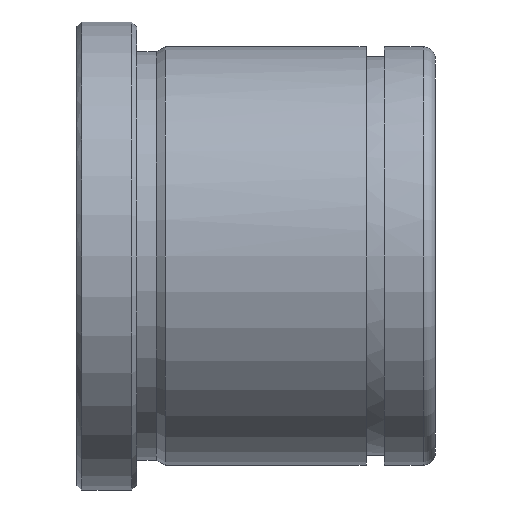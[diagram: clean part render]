
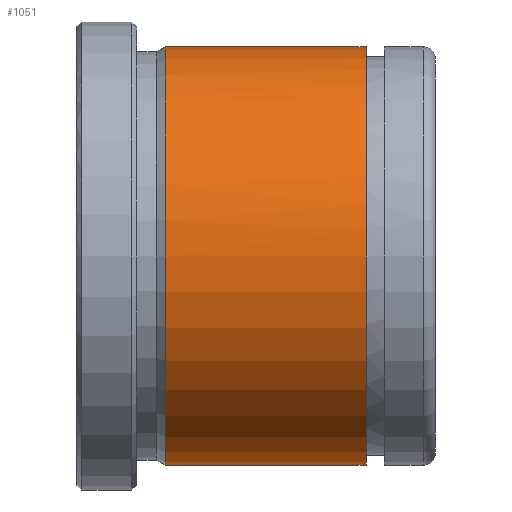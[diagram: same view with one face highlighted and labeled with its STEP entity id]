
A CAD part, front view. The second image highlights one B-rep face of the part: STEP entity #1051.
In plain terms, the highlighted cylindrical face has radius 21 mm (diameter 42 mm), a partial arc.
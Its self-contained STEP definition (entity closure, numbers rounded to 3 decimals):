
#851=CARTESIAN_POINT('Vertex',(8.866,0.,-21.)) ;
#858=CARTESIAN_POINT('Vertex',(8.866,0.,21.)) ;
#887=CARTESIAN_POINT('Axis2P3D Location',(8.866,0.,0.)) ;
#891=CARTESIAN_POINT('Vertex',(8.866,-21.,0.)) ;
#894=CARTESIAN_POINT('Axis2P3D Location',(8.866,0.,0.)) ;
#985=CARTESIAN_POINT('Line Origine',(72.,0.,21.)) ;
#989=CARTESIAN_POINT('Vertex',(29.05,0.,21.)) ;
#1006=CARTESIAN_POINT('Vertex',(29.05,0.,-21.)) ;
#1009=CARTESIAN_POINT('Line Origine',(72.,0.,-21.)) ;
#1023=CARTESIAN_POINT('Axis2P3D Location',(72.,0.,0.)) ;
#1028=CARTESIAN_POINT('Axis2P3D Location',(29.05,0.,0.)) ;
#1032=CARTESIAN_POINT('Vertex',(29.05,-21.,0.)) ;
#1036=CARTESIAN_POINT('Control Point',(29.05,0.,21.)) ;
#1037=CARTESIAN_POINT('Control Point',(29.05,-6.597,21.)) ;
#1038=CARTESIAN_POINT('Control Point',(29.05,-13.201,18.417)) ;
#1039=CARTESIAN_POINT('Control Point',(29.05,-18.417,13.201)) ;
#1040=CARTESIAN_POINT('Control Point',(29.05,-21.,6.597)) ;
#1041=CARTESIAN_POINT('Control Point',(29.05,-21.,0.)) ;
#888=DIRECTION('Axis2P3D Direction',(1.,0.,-0.)) ;
#895=DIRECTION('Axis2P3D Direction',(1.,0.,-0.)) ;
#986=DIRECTION('Vector Direction',(-1.,0.,0.)) ;
#1010=DIRECTION('Vector Direction',(-1.,0.,0.)) ;
#1024=DIRECTION('Axis2P3D Direction',(-1.,-0.,-0.)) ;
#1025=DIRECTION('Axis2P3D XDirection',(0.,0.,-1.)) ;
#1029=DIRECTION('Axis2P3D Direction',(-1.,-0.,-0.)) ;
#889=AXIS2_PLACEMENT_3D('Circle Axis2P3D',#887,#888,$) ;
#896=AXIS2_PLACEMENT_3D('Circle Axis2P3D',#894,#895,$) ;
#1026=AXIS2_PLACEMENT_3D('Cylinder Axis2P3D',#1023,#1024,#1025) ;
#1030=AXIS2_PLACEMENT_3D('Circle Axis2P3D',#1028,#1029,$) ;
#1044=ORIENTED_EDGE('',*,*,#1013,.T.) ;
#1045=ORIENTED_EDGE('',*,*,#1034,.F.) ;
#1046=ORIENTED_EDGE('',*,*,#1042,.F.) ;
#1047=ORIENTED_EDGE('',*,*,#991,.T.) ;
#1048=ORIENTED_EDGE('',*,*,#898,.T.) ;
#1049=ORIENTED_EDGE('',*,*,#893,.T.) ;
#987=VECTOR('Line Direction',#986,1.) ;
#1011=VECTOR('Line Direction',#1010,1.) ;
#1051=ADVANCED_FACE('553-30X36',(#1050),#1027,.T.) ;
#1035=B_SPLINE_CURVE_WITH_KNOTS('',5,(#1036,#1037,#1038,#1039,#1040,#1041),.UNSPECIFIED.,.F.,.U.,(6,6),(-16.493,16.493),.UNSPECIFIED.) ;
#890=CIRCLE('generated circle',#889,21.) ;
#897=CIRCLE('generated circle',#896,21.) ;
#1031=CIRCLE('generated circle',#1030,21.) ;
#1027=CYLINDRICAL_SURFACE('generated cylinder',#1026,21.) ;
#893=EDGE_CURVE('',#892,#852,#890,.T.) ;
#898=EDGE_CURVE('',#859,#892,#897,.T.) ;
#991=EDGE_CURVE('',#990,#859,#988,.T.) ;
#1013=EDGE_CURVE('',#852,#1007,#1012,.F.) ;
#1034=EDGE_CURVE('',#1033,#1007,#1031,.F.) ;
#1042=EDGE_CURVE('',#990,#1033,#1035,.T.) ;
#1043=EDGE_LOOP('',(#1044,#1045,#1046,#1047,#1048,#1049)) ;
#1050=FACE_OUTER_BOUND('',#1043,.T.) ;
#988=LINE('Line',#985,#987) ;
#1012=LINE('Line',#1009,#1011) ;
#852=VERTEX_POINT('',#851) ;
#859=VERTEX_POINT('',#858) ;
#892=VERTEX_POINT('',#891) ;
#990=VERTEX_POINT('',#989) ;
#1007=VERTEX_POINT('',#1006) ;
#1033=VERTEX_POINT('',#1032) ;
